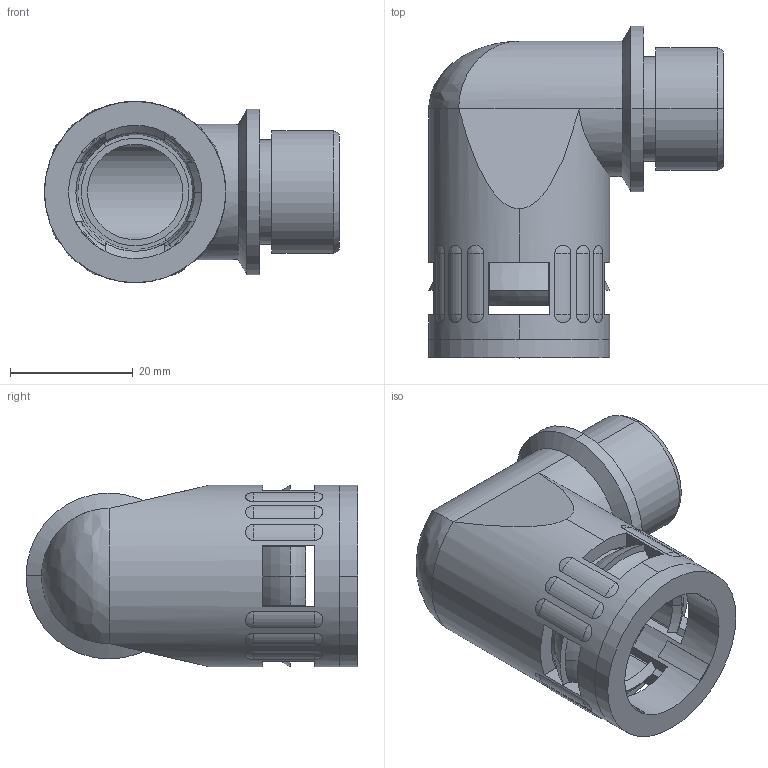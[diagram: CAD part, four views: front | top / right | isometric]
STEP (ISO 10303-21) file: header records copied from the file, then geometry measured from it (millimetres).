
FILE_DESCRIPTION (( 'STEP AP203' ), '1' );
FILE_NAME ('WQW-M20-AD21.2.STEP', '2019-05-24T01:53:58', ( '' ), ( '' ), 'SwSTEP 2.0', 'SolidWorks 2016', '' );
FILE_SCHEMA (( 'CONFIG_CONTROL_DESIGN' ));
Length unit declared in the file: millimetre
Products named in the file (4): NSK-AD21.2; GFD-AD21.2; WQW-M20-AD21.2-01; WQW-M20-AD21.2
Assembly tree (3 placements, depth 2):
  WQW-M20-AD21.2
    WQW-M20-AD21.2-01
    GFD-AD21.2
    NSK-AD21.2
Bounding box: 48 x 54 x 29.5 mm (x, y, z)
Volume: 19123.2 mm3; surface area: 18457 mm2
Topology: 6 solids, 7 shells, 285 faces, 697 edges, 428 vertices
Faces by surface type: plane 92, cone 81, cylinder 50, torus 33, sphere 24, bspline 5
Entity records: 9663 total; most frequent: CARTESIAN_POINT 2451, DIRECTION 1502, ORIENTED_EDGE 1388, EDGE_CURVE 694, AXIS2_PLACEMENT_3D 603, VERTEX_POINT 428, CIRCLE 317, EDGE_LOOP 314
